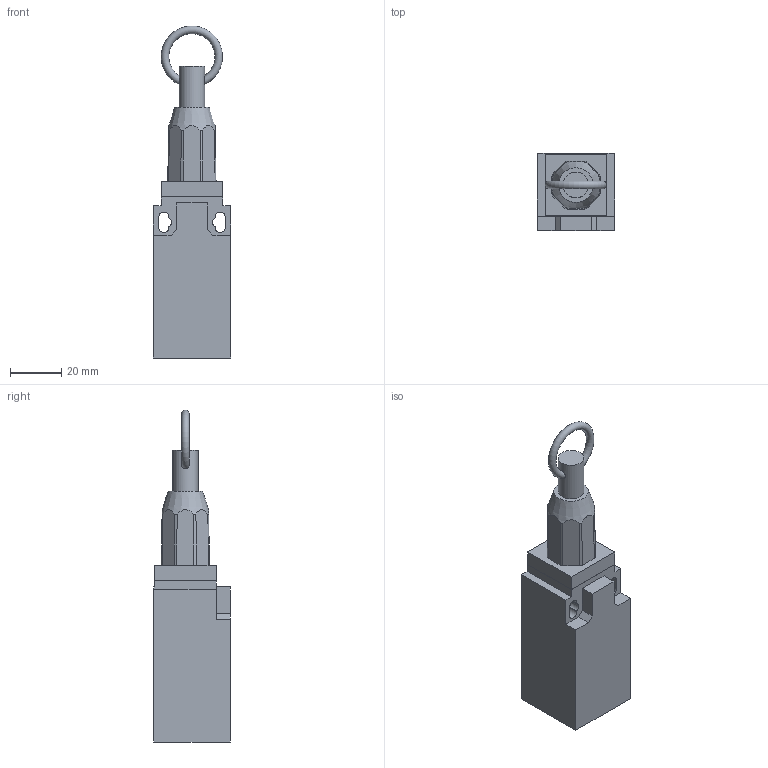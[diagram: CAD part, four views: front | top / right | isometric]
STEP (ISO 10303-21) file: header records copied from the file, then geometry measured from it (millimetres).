
FILE_DESCRIPTION((''),'2;1');
FILE_NAME('D:\Documenti_D\Corrispondenza\Comepi\Catalogo da fare\Modelli Nov 2011\AP\STEP\AP1-T98.iam.stp','2011-11-17T11:45:20',(''),(''),'Autodesk Inventor 2010','Autodesk Inventor 2010','');
FILE_SCHEMA(('AUTOMOTIVE_DESIGN { 1 0 10303 214 1 1 1 1 }'));
Length unit declared in the file: millimetre
Products named in the file (5): AP1-T98; AP1; T98.iam; T98_1; T98_2
Assembly tree (4 placements, depth 3):
  AP1-T98
    AP1
    T98.iam
      T98_1
      T98_2
Bounding box: 30.3 x 30 x 129.73 mm (x, y, z)
Volume: 61261.1 mm3; surface area: 16375.4 mm2
Topology: 3 solids, 3 shells, 64 faces, 167 edges, 111 vertices
Faces by surface type: plane 45, cylinder 9, cone 9, torus 1
Full cylindrical faces by diameter (mm): 10 x2, 20.4 x1
Entity records: 2130 total; most frequent: CARTESIAN_POINT 459, ORIENTED_EDGE 318, DIRECTION 314, EDGE_CURVE 159, VERTEX_POINT 109, AXIS2_PLACEMENT_3D 108, VECTOR 98, LINE 98
